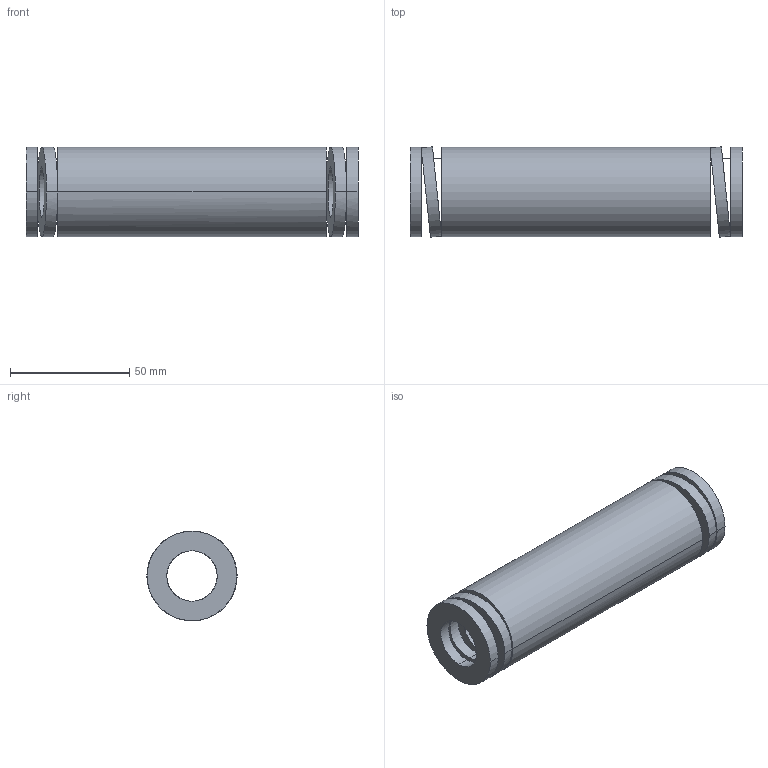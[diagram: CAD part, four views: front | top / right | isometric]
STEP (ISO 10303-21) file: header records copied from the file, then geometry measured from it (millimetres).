
FILE_DESCRIPTION(('CATIA V5 STEP Exchange'),'2;1');
FILE_NAME('C:\Users\Utente\Desktop\IO LAVORO\3D X SITO CF\X SITO\3D files 392B\392-B40-139.stp','2021-08-13T11:15:40+00:00',('none'),('none'),'CATIA Version 5 Release 20 GA (IN-10)','CATIA V5 STEP AP203','none');
FILE_SCHEMA(('CONFIG_CONTROL_DESIGN'));
Length unit declared in the file: millimetre
Products named in the file (1): 392-B40-139
Bounding box: 139 x 37.78 x 37.5 mm (x, y, z)
Volume: 98952.3 mm3; surface area: 31687.5 mm2
Topology: 1 solids, 1 shells, 38 faces, 92 edges, 64 vertices
Faces by surface type: cylinder 28, plane 10
Entity records: 1638 total; most frequent: CARTESIAN_POINT 761, ORIENTED_EDGE 184, DIRECTION 123, EDGE_CURVE 92, VERTEX_POINT 64, AXIS2_PLACEMENT_3D 58, EDGE_LOOP 56, B_SPLINE_CURVE_WITH_KNOTS 45
